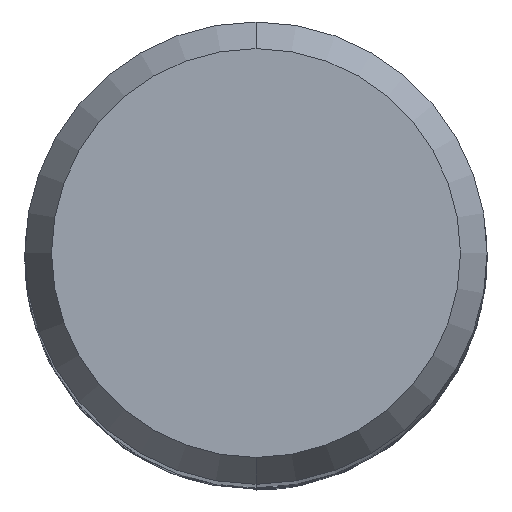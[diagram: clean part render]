
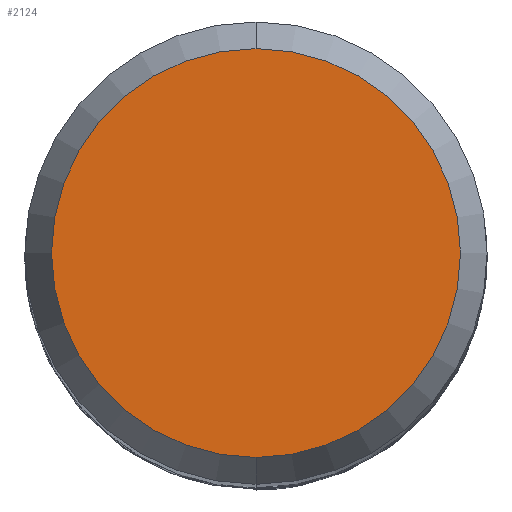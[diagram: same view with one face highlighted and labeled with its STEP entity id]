
A CAD part, top view. The second image highlights one B-rep face of the part: STEP entity #2124.
In plain terms, the highlighted planar face has unit normal (0, 0, 1).
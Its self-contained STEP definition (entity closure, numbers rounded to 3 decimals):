
#960=VERTEX_POINT('',#2440);
#1338=EDGE_CURVE('',#960,#1948,#2849,.T.);
#1948=VERTEX_POINT('',#3512);
#2098=EDGE_CURVE('',#1948,#960,#3681,.T.);
#2124=ADVANCED_FACE('',(#3708),#3709,.T.);
#2440=CARTESIAN_POINT('',(0.0,4.423,0.0));
#2849=CIRCLE('',#10811,4.423);
#3512=CARTESIAN_POINT('',(0.,-4.423,0.0));
#3681=CIRCLE('',#18910,4.423);
#3708=FACE_OUTER_BOUND('',#18972,.T.);
#3709=PLANE('',#18973);
#10811=AXIS2_PLACEMENT_3D('',#19997,#19998,#19999);
#18910=AXIS2_PLACEMENT_3D('',#20851,#20852,#20853);
#18972=EDGE_LOOP('',(#20872,#20873));
#18973=AXIS2_PLACEMENT_3D('',#20874,#20875,#20876);
#19997=CARTESIAN_POINT('',(0.0,0.0,0.0));
#19998=DIRECTION('',(0.0,0.0,-1.0));
#19999=DIRECTION('',(0.0,1.0,0.0));
#20851=CARTESIAN_POINT('',(0.0,0.0,0.0));
#20852=DIRECTION('',(0.0,0.0,-1.0));
#20853=DIRECTION('',(0.0,1.0,0.0));
#20872=ORIENTED_EDGE('',*,*,#1338,.F.);
#20873=ORIENTED_EDGE('',*,*,#2098,.F.);
#20874=CARTESIAN_POINT('',(0.0,2.211,0.0));
#20875=DIRECTION('',(-0.0,0.0,1.0));
#20876=DIRECTION('',(0.0,-1.0,0.0));
